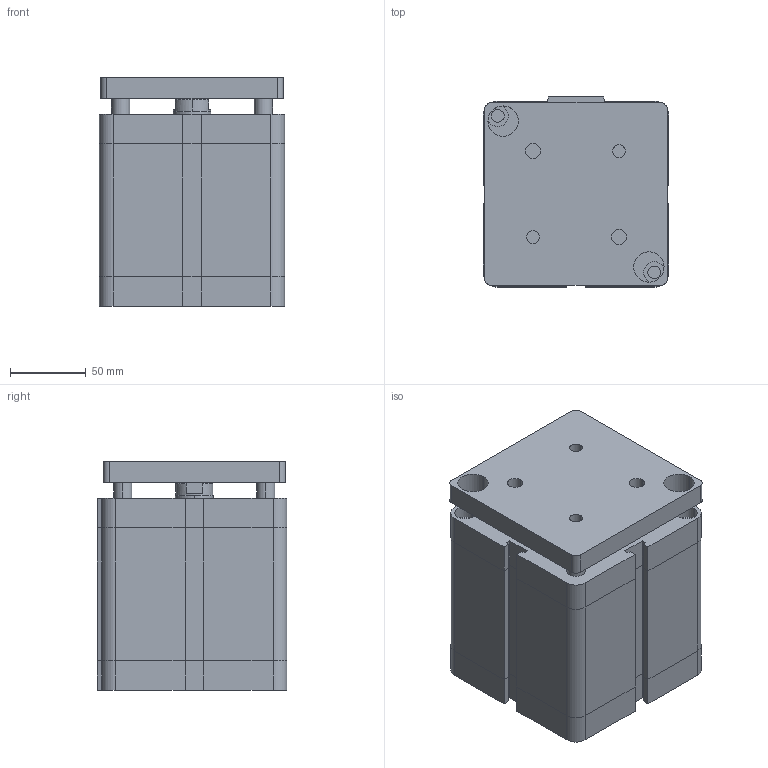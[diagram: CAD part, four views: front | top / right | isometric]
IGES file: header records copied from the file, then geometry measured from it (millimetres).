
Global section: file name: No Iges File Name specified; native system: Autodesk Inventor 2009; preprocessor: AutoDesk Inventor Iges Exporter R2009; author: maffial1; date: 20090420.201426; units: millimetre
Bounding box: 122 x 125 x 150.5 mm (x, y, z)
Volume: 2045037.3 mm3; surface area: 162251 mm2
Topology: 2 solids, 2 shells, 212 faces, 486 edges, 298 vertices
Faces by surface type: plane 111, bspline 67, cylinder 26, cone 8
